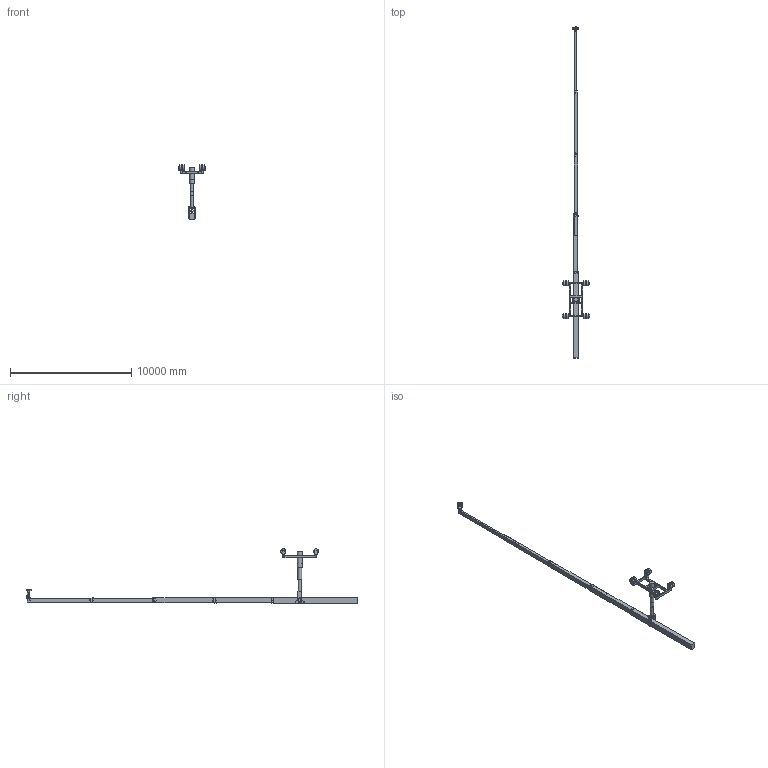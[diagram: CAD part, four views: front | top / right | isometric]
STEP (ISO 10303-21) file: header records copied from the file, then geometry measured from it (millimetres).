
FILE_DESCRIPTION(/* description */ ('03/09-50-00'),/* implementation_level */ '2;1');
FILE_NAME(/* name */ 'W:\TechnoCrane\75 SUPERTECHNO 75\Model pro Motion builder\ST75Plus Motion builder_grey.stp',/* time_stamp */ '2021-04-23T10:34:58+02:00',/* author */ ('ivana'),/* organization */ (''),/* preprocessor_version */ 'ST-DEVELOPER v18.1',/* originating_system */ 'Autodesk Inventor 2021',/* authorisation */ '');
FILE_SCHEMA (('AUTOMOTIVE_DESIGN { 1 0 10303 214 3 1 1 }'));
Length unit declared in the file: millimetre
Products named in the file (22): ST75Plus Motion builder_grey; Base ST75; 1st beam; 2nd beam; 3rd beam; 4th beam; Head; Head PAN; Head ROLL; Head tube; Head TILT; Autohorizon; Fork ST75; 5th beam; Kamera; Hitachi DK_Z50; Canon ovládání lens; Objektiv HJ14ex4.3; Column ST75; Column ST75_1; Column ST75_2; Column ST75_3
Assembly tree (25 placements, depth 3):
  ST75Plus Motion builder_grey
    Base ST75
    1st beam
    2nd beam
    3rd beam
    4th beam
    Head
      Head PAN
      Head ROLL
      Head TILT  x2
      Head tube  x4
    Autohorizon
    Fork ST75
    5th beam
    Kamera
      Hitachi DK_Z50
      Canon ovládání lens
      Objektiv HJ14ex4.3
    Column ST75
      Column ST75_1
      Column ST75_2
      Column ST75_3
Bounding box: 2230 x 27362.5 x 4493 mm (x, y, z)
Volume: 4836547969.6 mm3; surface area: 67771489.6 mm2
Topology: 27 solids, 27 shells, 535 faces, 1146 edges, 701 vertices
Faces by surface type: plane 411, cylinder 105, cone 13, sphere 4, bspline 2
Full cylindrical faces by diameter (mm): 4.917 x2, 8.376 x2, 9.6 x3, 20 x4, 40 x4, 48 x1, 50 x1, 57 x1, 62 x1, 65 x1, 68 x2, 80 x13, 84 x1, 95 x1, 138 x2, 243 x1, 295 x1, 322 x1, 334 x1, 375 x1, 418 x8
Entity records: 14997 total; most frequent: CARTESIAN_POINT 2575, DIRECTION 2444, ORIENTED_EDGE 2236, EDGE_CURVE 1118, LINE 902, VECTOR 902, AXIS2_PLACEMENT_3D 771, VERTEX_POINT 687
